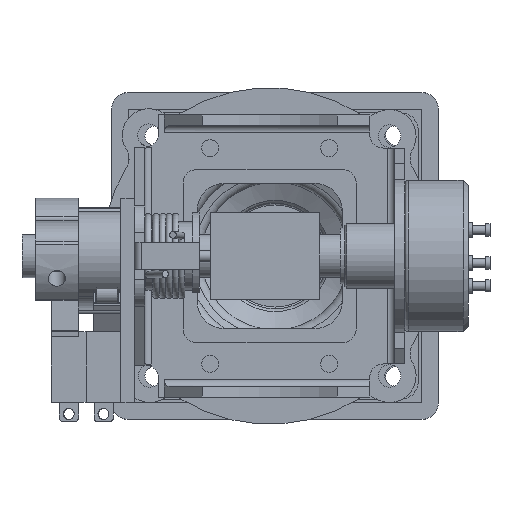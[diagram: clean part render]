
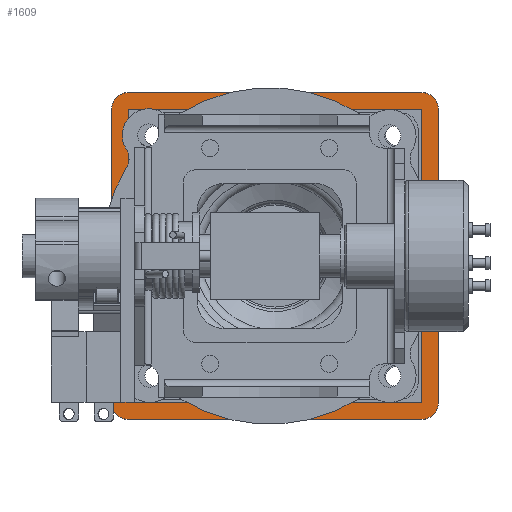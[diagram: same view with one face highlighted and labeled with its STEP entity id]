
A CAD part, front view. The second image highlights one B-rep face of the part: STEP entity #1609.
In plain terms, the highlighted planar face has unit normal (0, -1, 0).
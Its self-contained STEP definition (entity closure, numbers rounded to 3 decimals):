
#1609 = ADVANCED_FACE( '', ( #3128, #3129 ), #3130, .F. );
#3128 = FACE_BOUND( '', #4619, .T. );
#3129 = FACE_OUTER_BOUND( '', #4620, .T. );
#3130 = PLANE( '', #4621 );
#4619 = EDGE_LOOP( '', ( #7490, #7491, #7492, #7493 ) );
#4620 = EDGE_LOOP( '', ( #7494, #7495, #7496, #7497, #7498, #7499, #7500, #7501 ) );
#4621 = AXIS2_PLACEMENT_3D( '', #7502, #7503, #7504 );
#7490 = ORIENTED_EDGE( '', *, *, #8985, .T. );
#7491 = ORIENTED_EDGE( '', *, *, #9137, .T. );
#7492 = ORIENTED_EDGE( '', *, *, #8633, .T. );
#7493 = ORIENTED_EDGE( '', *, *, #8235, .T. );
#7494 = ORIENTED_EDGE( '', *, *, #8329, .T. );
#7495 = ORIENTED_EDGE( '', *, *, #9120, .F. );
#7496 = ORIENTED_EDGE( '', *, *, #8727, .T. );
#7497 = ORIENTED_EDGE( '', *, *, #9012, .F. );
#7498 = ORIENTED_EDGE( '', *, *, #8102, .T. );
#7499 = ORIENTED_EDGE( '', *, *, #8210, .F. );
#7500 = ORIENTED_EDGE( '', *, *, #8770, .T. );
#7501 = ORIENTED_EDGE( '', *, *, #8500, .F. );
#7502 = CARTESIAN_POINT( '', ( -0.385, -3.539, 0.818 ) );
#7503 = DIRECTION( '', ( 0., 1., 0. ) );
#7504 = DIRECTION( '', ( 0., 0., 1. ) );
#8102 = EDGE_CURVE( '', #9319, #9320, #9321, .F. );
#8210 = EDGE_CURVE( '', #9514, #9320, #9516, .T. );
#8235 = EDGE_CURVE( '', #9558, #9559, #9560, .T. );
#8329 = EDGE_CURVE( '', #9720, #9721, #9722, .F. );
#8500 = EDGE_CURVE( '', #9720, #10001, #10002, .T. );
#8633 = EDGE_CURVE( '', #10206, #9558, #10207, .T. );
#8727 = EDGE_CURVE( '', #10341, #10342, #10343, .F. );
#8770 = EDGE_CURVE( '', #9514, #10001, #10404, .F. );
#8985 = EDGE_CURVE( '', #9559, #10710, #10711, .T. );
#9012 = EDGE_CURVE( '', #9319, #10342, #10746, .T. );
#9120 = EDGE_CURVE( '', #10341, #9721, #10873, .T. );
#9137 = EDGE_CURVE( '', #10710, #10206, #10891, .T. );
#9319 = VERTEX_POINT( '', #11093 );
#9320 = VERTEX_POINT( '', #11094 );
#9321 = CIRCLE( '', #11095, 2.5 );
#9514 = VERTEX_POINT( '', #11388 );
#9516 = LINE( '', #11391, #11392 );
#9558 = VERTEX_POINT( '', #11442 );
#9559 = VERTEX_POINT( '', #11443 );
#9560 = LINE( '', #11444, #11445 );
#9720 = VERTEX_POINT( '', #11633 );
#9721 = VERTEX_POINT( '', #11634 );
#9722 = CIRCLE( '', #11635, 2.5 );
#10001 = VERTEX_POINT( '', #11977 );
#10002 = LINE( '', #11978, #11979 );
#10206 = VERTEX_POINT( '', #12281 );
#10207 = LINE( '', #12282, #12283 );
#10341 = VERTEX_POINT( '', #12522 );
#10342 = VERTEX_POINT( '', #12523 );
#10343 = CIRCLE( '', #12524, 2.5 );
#10404 = CIRCLE( '', #12599, 2.5 );
#10710 = VERTEX_POINT( '', #13015 );
#10711 = LINE( '', #13016, #13017 );
#10746 = LINE( '', #13104, #13105 );
#10873 = LINE( '', #13265, #13266 );
#10891 = LINE( '', #13287, #13288 );
#11093 = CARTESIAN_POINT( '', ( -24., -3.539, -21.5 ) );
#11094 = CARTESIAN_POINT( '', ( -21.5, -3.539, -24. ) );
#11095 = AXIS2_PLACEMENT_3D( '', #13483, #13484, #13485 );
#11388 = CARTESIAN_POINT( '', ( 21.5, -3.539, -24. ) );
#11391 = CARTESIAN_POINT( '', ( -24., -3.539, -24. ) );
#11392 = VECTOR( '', #13657, 1000. );
#11442 = CARTESIAN_POINT( '', ( 21.5, -3.539, 21.5 ) );
#11443 = CARTESIAN_POINT( '', ( 21.5, -3.539, -21.5 ) );
#11444 = CARTESIAN_POINT( '', ( 21.5, -3.539, 21.5 ) );
#11445 = VECTOR( '', #13696, 1000. );
#11633 = CARTESIAN_POINT( '', ( 24., -3.539, 21.5 ) );
#11634 = CARTESIAN_POINT( '', ( 21.5, -3.539, 24. ) );
#11635 = AXIS2_PLACEMENT_3D( '', #13875, #13876, #13877 );
#11977 = CARTESIAN_POINT( '', ( 24., -3.539, -21.5 ) );
#11978 = CARTESIAN_POINT( '', ( 24., -3.539, -24. ) );
#11979 = VECTOR( '', #14154, 1000. );
#12281 = CARTESIAN_POINT( '', ( -21.5, -3.539, 21.5 ) );
#12282 = CARTESIAN_POINT( '', ( -21.5, -3.539, 21.5 ) );
#12283 = VECTOR( '', #14356, 1000. );
#12522 = CARTESIAN_POINT( '', ( -21.5, -3.539, 24. ) );
#12523 = CARTESIAN_POINT( '', ( -24., -3.539, 21.5 ) );
#12524 = AXIS2_PLACEMENT_3D( '', #14472, #14473, #14474 );
#12599 = AXIS2_PLACEMENT_3D( '', #14528, #14529, #14530 );
#13015 = CARTESIAN_POINT( '', ( -21.5, -3.539, -21.5 ) );
#13016 = CARTESIAN_POINT( '', ( 21.5, -3.539, -21.5 ) );
#13017 = VECTOR( '', #14794, 1000. );
#13104 = CARTESIAN_POINT( '', ( -24., -3.539, 24. ) );
#13105 = VECTOR( '', #14814, 1000. );
#13265 = CARTESIAN_POINT( '', ( 24., -3.539, 24. ) );
#13266 = VECTOR( '', #14908, 1000. );
#13287 = CARTESIAN_POINT( '', ( -21.5, -3.539, -21.5 ) );
#13288 = VECTOR( '', #14918, 1000. );
#13483 = CARTESIAN_POINT( '', ( -21.5, -3.539, -21.5 ) );
#13484 = DIRECTION( '', ( 0., 1., 0. ) );
#13485 = DIRECTION( '', ( 0., 0., 1. ) );
#13657 = DIRECTION( '', ( -1., 0., 0. ) );
#13696 = DIRECTION( '', ( 0., 0., -1. ) );
#13875 = CARTESIAN_POINT( '', ( 21.5, -3.539, 21.5 ) );
#13876 = DIRECTION( '', ( 0., 1., 0. ) );
#13877 = DIRECTION( '', ( 0., 0., 1. ) );
#14154 = DIRECTION( '', ( 0., 0., -1. ) );
#14356 = DIRECTION( '', ( 1., 0., 0. ) );
#14472 = CARTESIAN_POINT( '', ( -21.5, -3.539, 21.5 ) );
#14473 = DIRECTION( '', ( 0., 1., 0. ) );
#14474 = DIRECTION( '', ( 0., 0., 1. ) );
#14528 = CARTESIAN_POINT( '', ( 21.5, -3.539, -21.5 ) );
#14529 = DIRECTION( '', ( 0., 1., 0. ) );
#14530 = DIRECTION( '', ( 0., 0., 1. ) );
#14794 = DIRECTION( '', ( -1., 0., 0. ) );
#14814 = DIRECTION( '', ( 0., 0., 1. ) );
#14908 = DIRECTION( '', ( 1., 0., 0. ) );
#14918 = DIRECTION( '', ( 0., 0., 1. ) );
